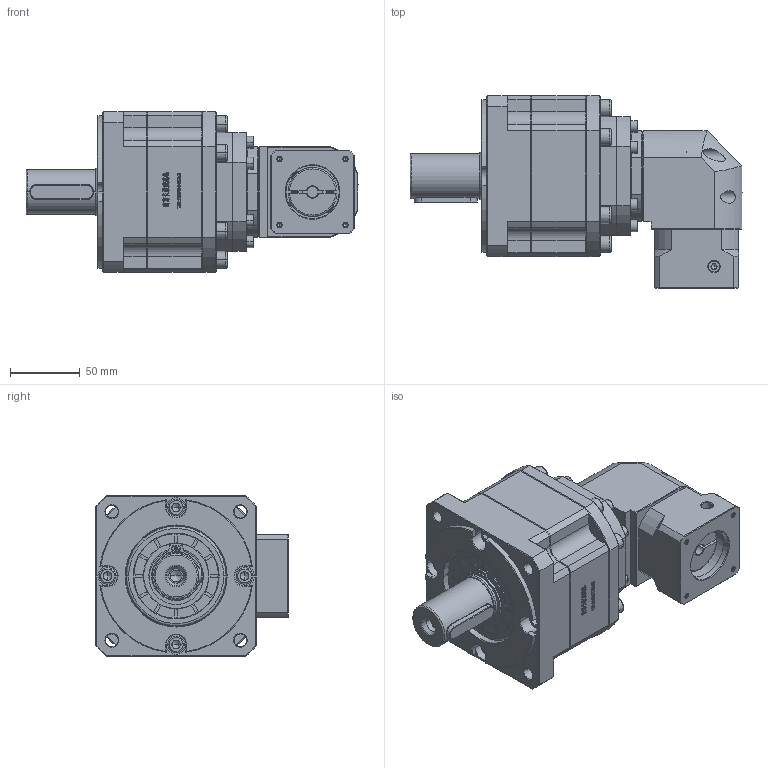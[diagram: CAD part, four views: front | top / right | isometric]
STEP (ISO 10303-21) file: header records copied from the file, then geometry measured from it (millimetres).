
FILE_DESCRIPTION (( 'STEP AP214' ), '1' );
FILE_NAME ('ZB115A-D32-L3-8-38.1-47.14x47.14-M4.step', '2023-03-03T08:04:59', ( '' ), ( 'Microsoft' ), 'SwSTEP 2.0', 'SolidWorks 2016', '' );
FILE_SCHEMA (( 'AUTOMOTIVE_DESIGN' ));
Length unit declared in the file: millimetre
Products named in the file (1): ZB115A-D32-L3-8-38.1-47.14x47.14-M4
Bounding box: 237.5 x 137.7 x 115 mm (x, y, z)
Volume: 1572420.3 mm3; surface area: 147360.4 mm2
Topology: 6 solids, 6 shells, 3234 faces, 8612 edges, 5541 vertices
Faces by surface type: plane 1720, bspline 625, cylinder 479, cone 390, torus 20
Entity records: 168472 total; most frequent: CARTESIAN_POINT 57153, ORIENTED_EDGE 17100, DIRECTION 13357, EDGE_CURVE 8550, LINE 5663, VECTOR 5663, VERTEX_POINT 5541, AXIS2_PLACEMENT_3D 3847
